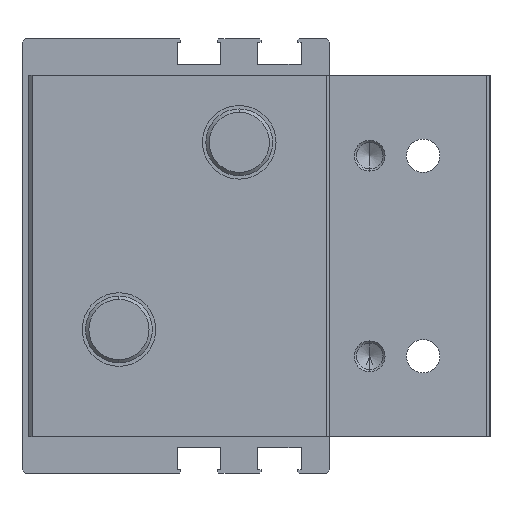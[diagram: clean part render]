
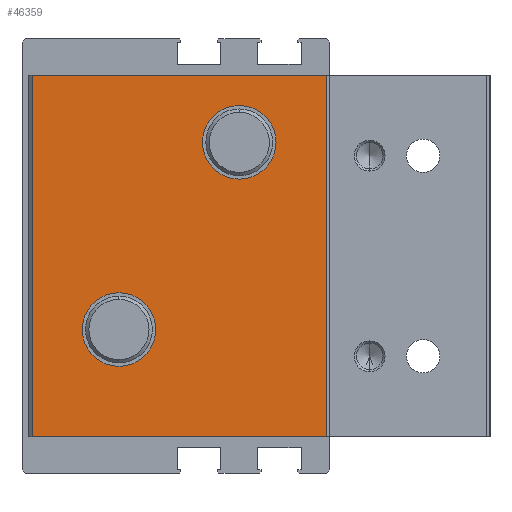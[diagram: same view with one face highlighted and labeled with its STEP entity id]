
A CAD part, left-side view. The second image highlights one B-rep face of the part: STEP entity #46359.
In plain terms, the highlighted planar face has unit normal (-1, 0, 0) as drawn and (1, 0, 0) by its records, which use the part's own axes.
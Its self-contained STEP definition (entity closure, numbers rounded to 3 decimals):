
#175 = CARTESIAN_POINT ( 'NONE',  ( 17., 32., -17. ) ) ;
#267 = AXIS2_PLACEMENT_3D ( 'NONE', #5108, #31572, #9477 ) ;
#1825 = EDGE_LOOP ( 'NONE', ( #8575, #34703 ) ) ;
#1845 = CIRCLE ( 'NONE', #23784, 5.5 ) ;
#2386 = VECTOR ( 'NONE', #6779, 1000. ) ;
#2712 = CIRCLE ( 'NONE', #267, 5.5 ) ;
#3151 = CARTESIAN_POINT ( 'NONE',  ( 17., 77., 27. ) ) ;
#5108 = CARTESIAN_POINT ( 'NONE',  ( 17., 55.5, 11. ) ) ;
#5651 = CARTESIAN_POINT ( 'NONE',  ( 17., 50., 11. ) ) ;
#5681 = CARTESIAN_POINT ( 'NONE',  ( 17., 68.5, 27. ) ) ;
#6680 = VERTEX_POINT ( 'NONE', #44385 ) ;
#6779 = DIRECTION ( 'NONE',  ( 0., 0., -1. ) ) ;
#7329 = VERTEX_POINT ( 'NONE', #35835 ) ;
#7809 = DIRECTION ( 'NONE',  ( 0., -1., 0. ) ) ;
#8396 = FACE_BOUND ( 'NONE', #1825, .T. ) ;
#8575 = ORIENTED_EDGE ( 'NONE', *, *, #30521, .T. ) ;
#8728 = DIRECTION ( 'NONE',  ( -1., 0., 0. ) ) ;
#9177 = LINE ( 'NONE', #33645, #28840 ) ;
#9322 = VECTOR ( 'NONE', #20050, 1000. ) ;
#9419 = DIRECTION ( 'NONE',  ( -1., 0., 0. ) ) ;
#9477 = DIRECTION ( 'NONE',  ( 0., 1., 0. ) ) ;
#9485 = ORIENTED_EDGE ( 'NONE', *, *, #33920, .T. ) ;
#9987 = FACE_OUTER_BOUND ( 'NONE', #33082, .T. ) ;
#10070 = CARTESIAN_POINT ( 'NONE',  ( 17., 43., -17. ) ) ;
#11731 = ORIENTED_EDGE ( 'NONE', *, *, #16759, .F. ) ;
#12110 = CARTESIAN_POINT ( 'NONE',  ( 17., 68.5, 27. ) ) ;
#12705 = ORIENTED_EDGE ( 'NONE', *, *, #37327, .T. ) ;
#13330 = DIRECTION ( 'NONE',  ( -1., 0., 0. ) ) ;
#14036 = CARTESIAN_POINT ( 'NONE',  ( 17., 68.5, 27. ) ) ;
#14152 = VERTEX_POINT ( 'NONE', #175 ) ;
#14276 = DIRECTION ( 'NONE',  ( 0., -1., 0. ) ) ;
#14748 = VERTEX_POINT ( 'NONE', #5651 ) ;
#15644 = VECTOR ( 'NONE', #14276, 1000. ) ;
#16259 = EDGE_LOOP ( 'NONE', ( #9485, #19566 ) ) ;
#16277 = EDGE_CURVE ( 'NONE', #24981, #6680, #47432, .T. ) ;
#16451 = VERTEX_POINT ( 'NONE', #10070 ) ;
#16759 = EDGE_CURVE ( 'NONE', #28498, #45858, #25512, .T. ) ;
#18661 = CIRCLE ( 'NONE', #20661, 5.5 ) ;
#19566 = ORIENTED_EDGE ( 'NONE', *, *, #26997, .T. ) ;
#20050 = DIRECTION ( 'NONE',  ( 0., 0., 1. ) ) ;
#20182 = CARTESIAN_POINT ( 'NONE',  ( 17., 55.5, 11. ) ) ;
#20366 = PLANE ( 'NONE',  #26478 ) ;
#20661 = AXIS2_PLACEMENT_3D ( 'NONE', #20182, #46014, #23901 ) ;
#21760 = ORIENTED_EDGE ( 'NONE', *, *, #40781, .F. ) ;
#23784 = AXIS2_PLACEMENT_3D ( 'NONE', #30834, #8728, #34548 ) ;
#23901 = DIRECTION ( 'NONE',  ( 0., 1., 0. ) ) ;
#24981 = VERTEX_POINT ( 'NONE', #26204 ) ;
#25512 = LINE ( 'NONE', #14036, #2386 ) ;
#26204 = CARTESIAN_POINT ( 'NONE',  ( 17., 24.5, -27. ) ) ;
#26478 = AXIS2_PLACEMENT_3D ( 'NONE', #5681, #9419, #35257 ) ;
#26997 = EDGE_CURVE ( 'NONE', #14748, #7329, #2712, .T. ) ;
#28498 = VERTEX_POINT ( 'NONE', #12110 ) ;
#28840 = VECTOR ( 'NONE', #7809, 1000. ) ;
#30277 = AXIS2_PLACEMENT_3D ( 'NONE', #35476, #13330, #39164 ) ;
#30521 = EDGE_CURVE ( 'NONE', #16451, #14152, #36083, .T. ) ;
#30834 = CARTESIAN_POINT ( 'NONE',  ( 17., 37.5, -17. ) ) ;
#31572 = DIRECTION ( 'NONE',  ( -1., 0., 0. ) ) ;
#32099 = ORIENTED_EDGE ( 'NONE', *, *, #16277, .F. ) ;
#33082 = EDGE_LOOP ( 'NONE', ( #11731, #12705, #32099, #21760 ) ) ;
#33645 = CARTESIAN_POINT ( 'NONE',  ( 17., 77., -27. ) ) ;
#33920 = EDGE_CURVE ( 'NONE', #7329, #14748, #18661, .T. ) ;
#34548 = DIRECTION ( 'NONE',  ( 0., 1., 0. ) ) ;
#34703 = ORIENTED_EDGE ( 'NONE', *, *, #35387, .T. ) ;
#35257 = DIRECTION ( 'NONE',  ( 0., -1., 0. ) ) ;
#35387 = EDGE_CURVE ( 'NONE', #14152, #16451, #1845, .T. ) ;
#35476 = CARTESIAN_POINT ( 'NONE',  ( 17., 37.5, -17. ) ) ;
#35835 = CARTESIAN_POINT ( 'NONE',  ( 17., 61., 11. ) ) ;
#36083 = CIRCLE ( 'NONE', #30277, 5.5 ) ;
#36420 = LINE ( 'NONE', #3151, #15644 ) ;
#37327 = EDGE_CURVE ( 'NONE', #28498, #6680, #36420, .T. ) ;
#38395 = CARTESIAN_POINT ( 'NONE',  ( 17., 68.5, -27. ) ) ;
#38489 = CARTESIAN_POINT ( 'NONE',  ( 17., 24.5, 27. ) ) ;
#39164 = DIRECTION ( 'NONE',  ( 0., 1., 0. ) ) ;
#40781 = EDGE_CURVE ( 'NONE', #45858, #24981, #9177, .T. ) ;
#44385 = CARTESIAN_POINT ( 'NONE',  ( 17., 24.5, 27. ) ) ;
#45353 = FACE_BOUND ( 'NONE', #16259, .T. ) ;
#45858 = VERTEX_POINT ( 'NONE', #38395 ) ;
#46014 = DIRECTION ( 'NONE',  ( -1., 0., 0. ) ) ;
#46359 = ADVANCED_FACE ( 'NONE', ( #9987, #45353, #8396 ), #20366, .F. ) ;
#47432 = LINE ( 'NONE', #38489, #9322 ) ;
